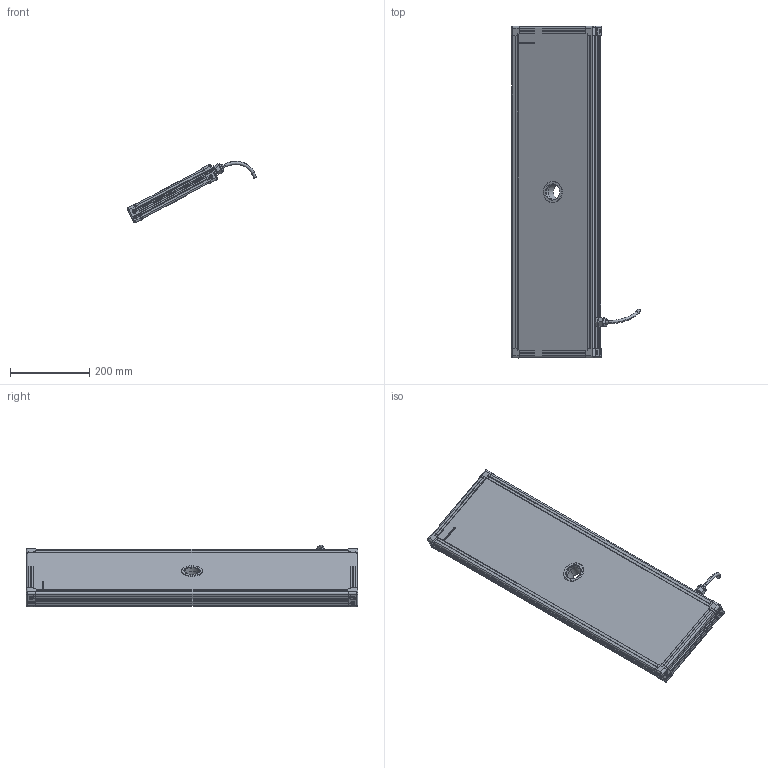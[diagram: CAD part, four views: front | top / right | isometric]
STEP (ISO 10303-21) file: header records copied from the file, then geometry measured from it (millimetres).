
FILE_DESCRIPTION (( 'STEP AP214' ), '1' );
FILE_NAME ('EFFI-FD-200-800-ZZZ-1M12P.STEP', '2021-06-21T08:01:55', ( '' ), ( '' ), 'SwSTEP 2.0', 'SolidWorks 2021', '' );
FILE_SCHEMA (( 'AUTOMOTIVE_DESIGN' ));
Length unit declared in the file: millimetre
Products named in the file (13): 001036; assemblage Ø39; M12 power_AVEC CABLE D8.1; profile Y_PERCE; petite joue; 000629; Pièce13^EFFI-FD-XXX-YYY-ZZZ (1 connecteur) M12POWER Ø39; profile X_PERCE; 001035; petite joue + vis; 000590; EFFI-FD-200-800-ZZZ-1M12P
Assembly tree (19 placements, depth 3):
  EFFI-FD-200-800-ZZZ-1M12P
    profile X_PERCE  x2
    profile Y_PERCE
    profile Y_PERCE
    Pièce13^EFFI-FD-XXX-YYY-ZZZ (1 connecteur) M12POWER Ø39
    petite joue + vis  x4
      petite joue
      000629
    M12 power_AVEC CABLE D8.1
    assemblage Ø39
      001036
      000590  x3
      001035
Bounding box: 326.69 x 839 x 155.49 mm (x, y, z)
Volume: 6862039.5 mm3; surface area: 739469.3 mm2
Topology: 22 solids, 25 shells, 3896 faces, 10381 edges, 6830 vertices
Faces by surface type: plane 2438, cylinder 691, bspline 591, cone 154, torus 22
Entity records: 54477 total; most frequent: CARTESIAN_POINT 22298, ORIENTED_EDGE 6752, DIRECTION 5429, EDGE_CURVE 3378, VECTOR 2403, LINE 2403, VERTEX_POINT 2231, AXIS2_PLACEMENT_3D 1513
